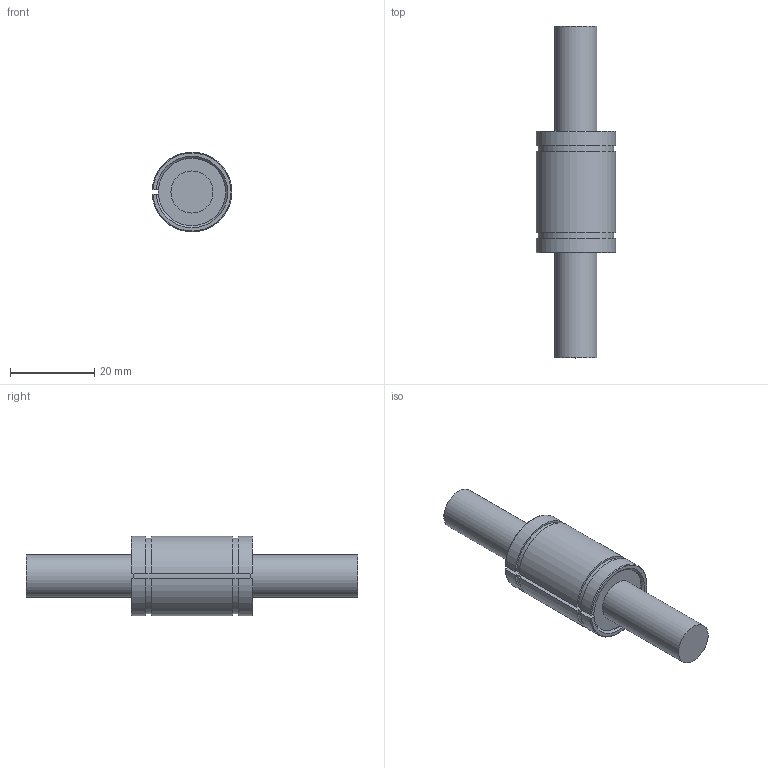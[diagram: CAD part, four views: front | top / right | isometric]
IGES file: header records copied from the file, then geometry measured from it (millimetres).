
Global section: file name: No Iges File Name specified; native system: Autodesk Inventor 2012; preprocessor: AutoDesk Inventor Iges Exporter R2012; author: user2; date: 20130206.101500; units: millimetre
Bounding box: 18.99 x 79 x 18.99 mm (x, y, z)
Volume: 11870.9 mm3; surface area: 4113.2 mm2
Topology: 1 solids, 1 shells, 26 faces, 64 edges, 42 vertices
Faces by surface type: plane 12, cylinder 8, revolution 4, torus 2
Full cylindrical faces by diameter (mm): 10 x2
